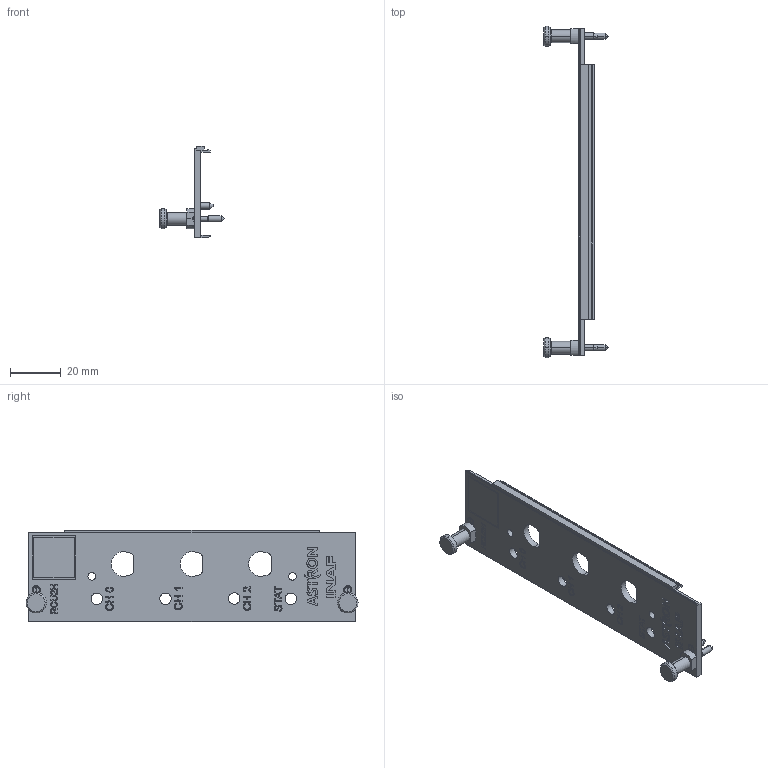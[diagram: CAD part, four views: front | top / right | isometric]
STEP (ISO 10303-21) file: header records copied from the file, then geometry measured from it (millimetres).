
FILE_DESCRIPTION(/* description */ (''),/* implementation_level */ '2;1');
FILE_NAME(/* name */ '015375_01-RCU2H_assy front panel.stp',/* time_stamp */ '2023-05-30T09:11:23+02:00',/* author */ (''),/* organization */ (''),/* preprocessor_version */ 'ST-DEVELOPER v18.1',/* originating_system */ 'SIEMENS PLM Software NX 1973',/* authorisation */ '');
FILE_SCHEMA (('AUTOMOTIVE_DESIGN { 1 0 10303 214 3 1 1 1 }'));
Length unit declared in the file: millimetre
Products named in the file (5): 015369_01-Front panel EMC gasket_3U; 015373_02-RCU2H_front panel; 015371_01-Collar Screw_ Knurled Head Long Version; 015370_01-Front panel sleeve_M2-5; 015375_01-RCU2H_assy front panel
Assembly tree (6 placements, depth 2):
  015375_01-RCU2H_assy front panel
    015370_01-Front panel sleeve_M2-5  x2
    015371_01-Collar Screw_ Knurled Head Long Version  x2
    015373_02-RCU2H_front panel
    015369_01-Front panel EMC gasket_3U
Bounding box: 25.3 x 130.4 x 35.92 mm (x, y, z)
Volume: 12284.5 mm3; surface area: 13546.6 mm2
Topology: 8 solids, 8 shells, 358 faces, 1092 edges, 807 vertices
Faces by surface type: plane 207, cylinder 82, cone 36, torus 20, extrusion 11, sphere 2
Full cylindrical faces by diameter (mm): 3 x2, 4.5 x4
Entity records: 13532 total; most frequent: CARTESIAN_POINT 3858, ORIENTED_EDGE 1872, DIRECTION 1558, EDGE_CURVE 936, VERTEX_POINT 716, VECTOR 618, LINE 607, AXIS2_PLACEMENT_3D 470
